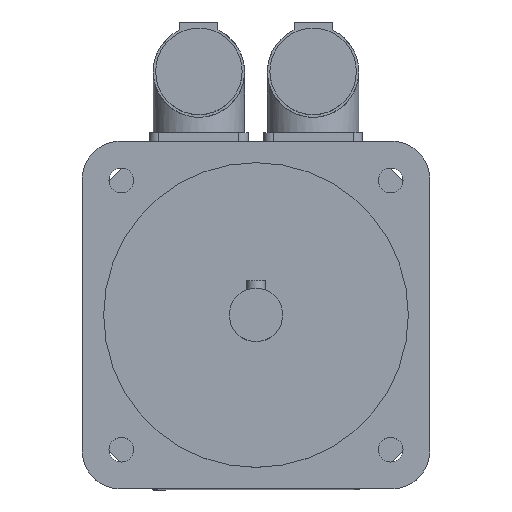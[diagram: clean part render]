
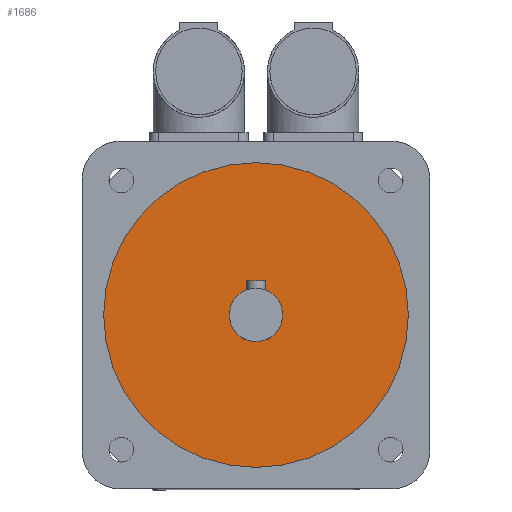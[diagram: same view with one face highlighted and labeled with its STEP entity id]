
A CAD part, top view. The second image highlights one B-rep face of the part: STEP entity #1686.
In plain terms, the highlighted planar face has unit normal (0, 0, 1).
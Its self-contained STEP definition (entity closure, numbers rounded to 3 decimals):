
#28=FACE_BOUND('',#305,.T.);
#53=CIRCLE('',#1788,7.);
#54=CIRCLE('',#1791,40.);
#202=FACE_OUTER_BOUND('',#304,.T.);
#304=EDGE_LOOP('',(#1158));
#305=EDGE_LOOP('',(#1159));
#718=VERTEX_POINT('',#2569);
#719=VERTEX_POINT('',#2573);
#892=EDGE_CURVE('',#718,#718,#53,.T.);
#893=EDGE_CURVE('',#719,#719,#54,.T.);
#1158=ORIENTED_EDGE('',*,*,#893,.T.);
#1159=ORIENTED_EDGE('',*,*,#892,.T.);
#1633=PLANE('',#1793);
#1686=ADVANCED_FACE('',(#202,#28),#1633,.T.);
#1788=AXIS2_PLACEMENT_3D('',#2570,#2000,#2001);
#1791=AXIS2_PLACEMENT_3D('',#2574,#2006,#2007);
#1793=AXIS2_PLACEMENT_3D('',#2577,#2010,#2011);
#2000=DIRECTION('center_axis',(0.,0.,-1.));
#2001=DIRECTION('ref_axis',(-1.,0.,0.));
#2006=DIRECTION('center_axis',(0.,0.,1.));
#2007=DIRECTION('ref_axis',(-1.,0.,0.));
#2010=DIRECTION('center_axis',(0.,0.,1.));
#2011=DIRECTION('ref_axis',(1.,0.,0.));
#2569=CARTESIAN_POINT('',(7.,0.,145.));
#2570=CARTESIAN_POINT('Origin',(0.,0.,145.));
#2573=CARTESIAN_POINT('',(40.,0.,145.));
#2574=CARTESIAN_POINT('Origin',(0.,0.,145.));
#2577=CARTESIAN_POINT('Origin',(0.,0.,
145.));
